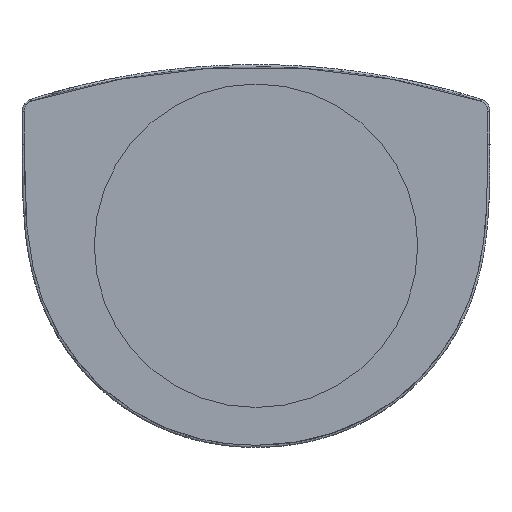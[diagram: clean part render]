
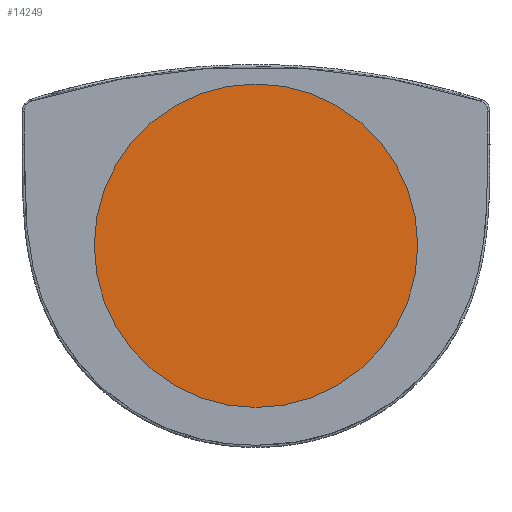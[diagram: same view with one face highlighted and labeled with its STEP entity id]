
A CAD part, front view. The second image highlights one B-rep face of the part: STEP entity #14249.
In plain terms, the highlighted planar face has unit normal (0, -1, 0).
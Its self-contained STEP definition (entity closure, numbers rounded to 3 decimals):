
#268 = VERTEX_POINT ( 'NONE', #967 ) ;
#967 = CARTESIAN_POINT ( 'NONE',  ( 0., 6.465, -300. ) ) ;
#1119 = CARTESIAN_POINT ( 'NONE',  ( 0., 6.465, 300. ) ) ;
#1538 = AXIS2_PLACEMENT_3D ( 'NONE', #2657, #5090, #7471 ) ;
#2296 = AXIS2_PLACEMENT_3D ( 'NONE', #9171, #14146, #3175 ) ;
#2657 = CARTESIAN_POINT ( 'NONE',  ( 0., 6.465, 0. ) ) ;
#3175 = DIRECTION ( 'NONE',  ( 0., 0., -1. ) ) ;
#4244 = EDGE_CURVE ( 'NONE', #12874, #268, #11849, .T. ) ;
#4755 = EDGE_LOOP ( 'NONE', ( #7922, #14570 ) ) ;
#4839 = DIRECTION ( 'NONE',  ( 0., 0., -1. ) ) ;
#5090 = DIRECTION ( 'NONE',  ( 0., -1., 0. ) ) ;
#7471 = DIRECTION ( 'NONE',  ( 0., 0., -1. ) ) ;
#7922 = ORIENTED_EDGE ( 'NONE', *, *, #4244, .T. ) ;
#8248 = DIRECTION ( 'NONE',  ( 0., -1., 0. ) ) ;
#8325 = CARTESIAN_POINT ( 'NONE',  ( 0., 6.465, 0. ) ) ;
#8606 = CIRCLE ( 'NONE', #1538, 300. ) ;
#9171 = CARTESIAN_POINT ( 'NONE',  ( 0., 6.465, 0. ) ) ;
#10357 = PLANE ( 'NONE',  #2296 ) ;
#10668 = FACE_OUTER_BOUND ( 'NONE', #4755, .T. ) ;
#11849 = CIRCLE ( 'NONE', #14124, 300. ) ;
#12874 = VERTEX_POINT ( 'NONE', #1119 ) ;
#13861 = EDGE_CURVE ( 'NONE', #268, #12874, #8606, .T. ) ;
#14124 = AXIS2_PLACEMENT_3D ( 'NONE', #8325, #8248, #4839 ) ;
#14146 = DIRECTION ( 'NONE',  ( 0., -1., 0. ) ) ;
#14249 = ADVANCED_FACE ( 'NONE', ( #10668 ), #10357, .T. ) ;
#14570 = ORIENTED_EDGE ( 'NONE', *, *, #13861, .T. ) ;
